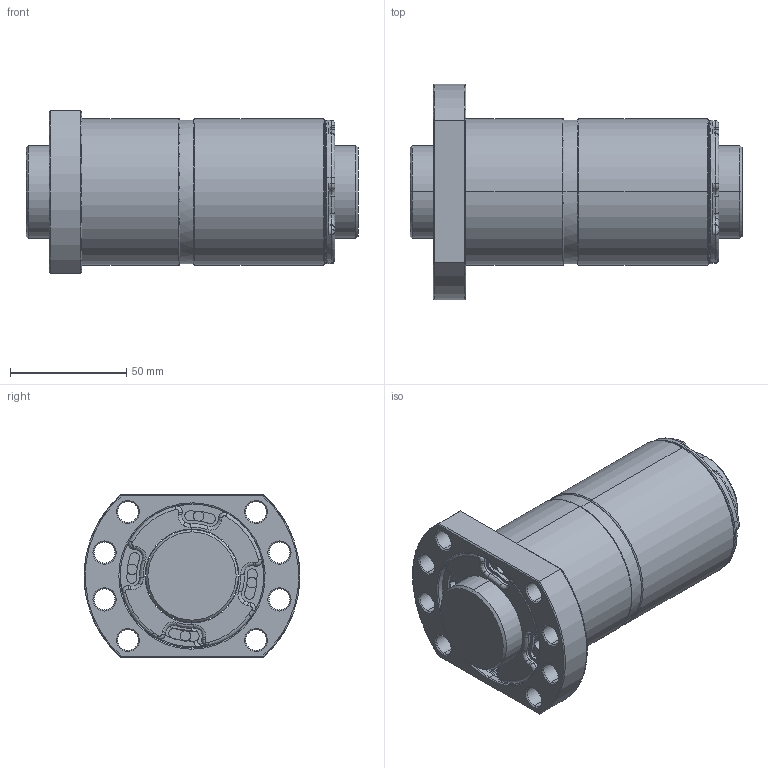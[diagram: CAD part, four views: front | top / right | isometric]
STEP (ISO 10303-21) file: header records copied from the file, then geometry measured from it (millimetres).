
FILE_DESCRIPTION (( 'STEP AP203' ), '1' );
FILE_NAME ('DFSR04010C1D-C.STEP', '2020-06-17T02:38:51', ( '' ), ( '' ), 'SwSTEP 2.0', 'SolidWorks 2013', '' );
FILE_SCHEMA (( 'CONFIG_CONTROL_DESIGN' ));
Length unit declared in the file: millimetre
Products named in the file (1): DFSR04010C1D-C
Bounding box: 143 x 93 x 70 mm (x, y, z)
Volume: 417664.8 mm3; surface area: 76509.4 mm2
Topology: 2 solids, 2 shells, 382 faces, 942 edges, 576 vertices
Faces by surface type: cylinder 176, plane 85, bspline 80, cone 41
Entity records: 15580 total; most frequent: CARTESIAN_POINT 6553, DIRECTION 1980, ORIENTED_EDGE 1878, EDGE_CURVE 939, AXIS2_PLACEMENT_3D 848, VERTEX_POINT 576, CIRCLE 545, EDGE_LOOP 419
